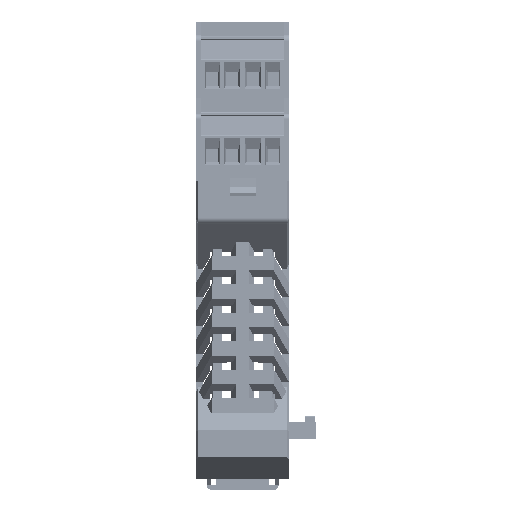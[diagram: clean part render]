
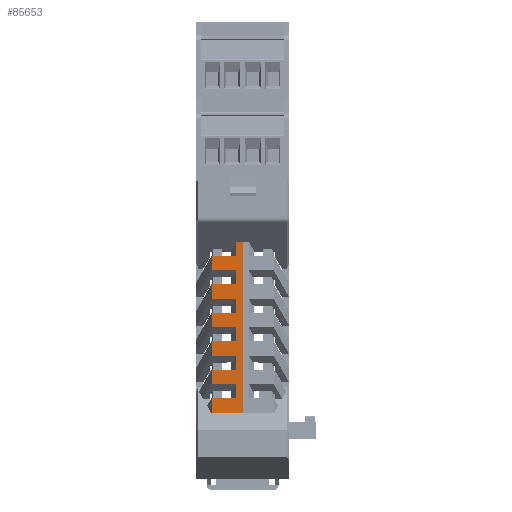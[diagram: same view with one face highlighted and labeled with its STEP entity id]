
A CAD part, front view. The second image highlights one B-rep face of the part: STEP entity #85653.
In plain terms, the highlighted planar face has unit normal (0, -1, 0) as drawn and (1, 0, 0) by its records, which use the part's own axes.
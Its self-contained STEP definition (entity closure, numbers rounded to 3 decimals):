
#85653=ADVANCED_FACE('',(#185867),#185869,.T.);
#185867=FACE_BOUND('',#185868,.T.);
#185868=EDGE_LOOP('',(#266113,#266114,#266115,#266116,#266117,#266118,#266119,#266120,
#266121,#266122,#266123,#266124,#266125,#266126,#266127,#266128,#266129,#266130,
#266131,#266132,#266133,#266134,#266135,#266136,#266137,#266138));
#185869=PLANE('',#185870);
#185870=AXIS2_PLACEMENT_3D('',#185871,#185872,#185873);
#185871=CARTESIAN_POINT('',(42.55,76.5,0.));
#185872=DIRECTION('',(1.,0.,0.));
#185873=DIRECTION('',(0.,0.,-1.));
#266113=ORIENTED_EDGE('',*,*,#314210,.F.);
#266114=ORIENTED_EDGE('',*,*,#314149,.F.);
#266115=ORIENTED_EDGE('',*,*,#314211,.F.);
#266116=ORIENTED_EDGE('',*,*,#314212,.T.);
#266117=ORIENTED_EDGE('',*,*,#313713,.T.);
#266118=ORIENTED_EDGE('',*,*,#314213,.F.);
#266119=ORIENTED_EDGE('',*,*,#314079,.F.);
#266120=ORIENTED_EDGE('',*,*,#314144,.F.);
#266121=ORIENTED_EDGE('',*,*,#313874,.F.);
#266122=ORIENTED_EDGE('',*,*,#314190,.T.);
#266123=ORIENTED_EDGE('',*,*,#314168,.F.);
#266124=ORIENTED_EDGE('',*,*,#314141,.F.);
#266125=ORIENTED_EDGE('',*,*,#314196,.F.);
#266126=ORIENTED_EDGE('',*,*,#314214,.T.);
#266127=ORIENTED_EDGE('',*,*,#314197,.T.);
#266128=ORIENTED_EDGE('',*,*,#314155,.F.);
#266129=ORIENTED_EDGE('',*,*,#314209,.T.);
#266130=ORIENTED_EDGE('',*,*,#314215,.T.);
#266131=ORIENTED_EDGE('',*,*,#314216,.T.);
#266132=ORIENTED_EDGE('',*,*,#314152,.F.);
#266133=ORIENTED_EDGE('',*,*,#314131,.T.);
#266134=ORIENTED_EDGE('',*,*,#314217,.F.);
#266135=ORIENTED_EDGE('',*,*,#314111,.T.);
#266136=ORIENTED_EDGE('',*,*,#314151,.F.);
#266137=ORIENTED_EDGE('',*,*,#314124,.T.);
#266138=ORIENTED_EDGE('',*,*,#314218,.T.);
#313713=EDGE_CURVE('',#368126,#368124,#368127,.T.);
#313874=EDGE_CURVE('',#368400,#368402,#368403,.T.);
#314079=EDGE_CURVE('',#368747,#368749,#368750,.T.);
#314111=EDGE_CURVE('',#368791,#368797,#368799,.T.);
#314124=EDGE_CURVE('',#368819,#368817,#368820,.T.);
#314131=EDGE_CURVE('',#368823,#368827,#368829,.T.);
#314141=EDGE_CURVE('',#368844,#368846,#368847,.T.);
#314144=EDGE_CURVE('',#368402,#368747,#368851,.T.);
#314149=EDGE_CURVE('',#368858,#368860,#368861,.T.);
#314151=EDGE_CURVE('',#368819,#368797,#368863,.T.);
#314152=EDGE_CURVE('',#368823,#368864,#368865,.T.);
#314155=EDGE_CURVE('',#368867,#368869,#368870,.T.);
#314168=EDGE_CURVE('',#368846,#368889,#368890,.T.);
#314190=EDGE_CURVE('',#368400,#368889,#368925,.T.);
#314196=EDGE_CURVE('',#368932,#368844,#368934,.T.);
#314197=EDGE_CURVE('',#368935,#368869,#368936,.T.);
#314209=EDGE_CURVE('',#368867,#368950,#368952,.T.);
#314210=EDGE_CURVE('',#368860,#368953,#368954,.T.);
#314211=EDGE_CURVE('',#368955,#368858,#368956,.T.);
#314212=EDGE_CURVE('',#368955,#368126,#368957,.T.);
#314213=EDGE_CURVE('',#368749,#368124,#368958,.T.);
#314214=EDGE_CURVE('',#368932,#368935,#368959,.T.);
#314215=EDGE_CURVE('',#368950,#368960,#368961,.T.);
#314216=EDGE_CURVE('',#368960,#368864,#368962,.T.);
#314217=EDGE_CURVE('',#368791,#368827,#368963,.T.);
#314218=EDGE_CURVE('',#368817,#368953,#368964,.T.);
#368124=VERTEX_POINT('',#491467);
#368126=VERTEX_POINT('',#491471);
#368127=LINE('',#491472,#491473);
#368400=VERTEX_POINT('',#492074);
#368402=VERTEX_POINT('',#492078);
#368403=LINE('',#492079,#492080);
#368747=VERTEX_POINT('',#492849);
#368749=VERTEX_POINT('',#492853);
#368750=LINE('',#492854,#492855);
#368791=VERTEX_POINT('',#492949);
#368797=VERTEX_POINT('',#492963);
#368799=LINE('',#492967,#492968);
#368817=VERTEX_POINT('',#493009);
#368819=VERTEX_POINT('',#493013);
#368820=LINE('',#493014,#493015);
#368823=VERTEX_POINT('',#493023);
#368827=VERTEX_POINT('',#493033);
#368829=LINE('',#493037,#493038);
#368844=VERTEX_POINT('',#493070);
#368846=VERTEX_POINT('',#493074);
#368847=LINE('',#493075,#493076);
#368851=LINE('',#493085,#493086);
#368858=VERTEX_POINT('',#493100);
#368860=VERTEX_POINT('',#493104);
#368861=LINE('',#493105,#493106);
#368863=LINE('',#493111,#493112);
#368864=VERTEX_POINT('',#493114);
#368865=LINE('',#493115,#493116);
#368867=VERTEX_POINT('',#493121);
#368869=VERTEX_POINT('',#493125);
#368870=LINE('',#493126,#493127);
#368889=VERTEX_POINT('',#493171);
#368890=LINE('',#493172,#493173);
#368925=LINE('',#493251,#493252);
#368932=VERTEX_POINT('',#493268);
#368934=LINE('',#493272,#493273);
#368935=VERTEX_POINT('',#493275);
#368936=LINE('',#493276,#493277);
#368950=VERTEX_POINT('',#493312);
#368952=LINE('',#493316,#493317);
#368953=VERTEX_POINT('',#493319);
#368954=LINE('',#493320,#493321);
#368955=VERTEX_POINT('',#493323);
#368956=LINE('',#493324,#493325);
#368957=LINE('',#493327,#493328);
#368958=LINE('',#493330,#493331);
#368959=LINE('',#493333,#493334);
#368960=VERTEX_POINT('',#493336);
#368961=LINE('',#493337,#493338);
#368962=LINE('',#493340,#493341);
#368963=LINE('',#493343,#493344);
#368964=LINE('',#493346,#493347);
#491467=CARTESIAN_POINT('',(42.55,20.,0.));
#491471=CARTESIAN_POINT('',(42.55,20.,7.547));
#491472=CARTESIAN_POINT('',(42.55,20.,7.547));
#491473=VECTOR('',#491474,1.);
#491474=DIRECTION('',(0.,0.,-1.));
#492074=CARTESIAN_POINT('',(42.55,58.2,7.547));
#492078=CARTESIAN_POINT('',(42.55,58.2,1.5));
#492079=CARTESIAN_POINT('',(42.55,58.2,7.547));
#492080=VECTOR('',#492081,1.);
#492081=DIRECTION('',(0.,0.,-1.));
#492849=CARTESIAN_POINT('',(42.55,61.6,1.5));
#492853=CARTESIAN_POINT('',(42.55,61.6,0.));
#492854=CARTESIAN_POINT('',(42.55,61.6,1.5));
#492855=VECTOR('',#492856,1.);
#492856=DIRECTION('',(0.,0.,-1.));
#492949=CARTESIAN_POINT('',(42.55,34.,7.547));
#492963=CARTESIAN_POINT('',(42.55,34.,1.5));
#492967=CARTESIAN_POINT('',(42.55,34.,7.547));
#492968=VECTOR('',#492969,1.);
#492969=DIRECTION('',(0.,0.,-1.));
#493009=CARTESIAN_POINT('',(42.55,30.6,7.547));
#493013=CARTESIAN_POINT('',(42.55,30.6,1.5));
#493014=CARTESIAN_POINT('',(42.55,30.6,1.5));
#493015=VECTOR('',#493016,1.);
#493016=DIRECTION('',(0.,0.,1.));
#493023=CARTESIAN_POINT('',(42.55,37.5,1.5));
#493033=CARTESIAN_POINT('',(42.55,37.5,7.547));
#493037=CARTESIAN_POINT('',(42.55,37.5,1.5));
#493038=VECTOR('',#493039,1.);
#493039=DIRECTION('',(0.,0.,1.));
#493070=CARTESIAN_POINT('',(42.55,51.3,1.5));
#493074=CARTESIAN_POINT('',(42.55,54.7,1.5));
#493075=CARTESIAN_POINT('',(42.55,51.3,1.5));
#493076=VECTOR('',#493077,1.);
#493077=DIRECTION('',(0.,1.,0.));
#493085=CARTESIAN_POINT('',(42.55,58.2,1.5));
#493086=VECTOR('',#493087,1.);
#493087=DIRECTION('',(0.,1.,0.));
#493100=CARTESIAN_POINT('',(42.55,23.7,1.5));
#493104=CARTESIAN_POINT('',(42.55,27.1,1.5));
#493105=CARTESIAN_POINT('',(42.55,23.7,1.5));
#493106=VECTOR('',#493107,1.);
#493107=DIRECTION('',(0.,1.,0.));
#493111=CARTESIAN_POINT('',(42.55,30.6,1.5));
#493112=VECTOR('',#493113,1.);
#493113=DIRECTION('',(0.,1.,0.));
#493114=CARTESIAN_POINT('',(42.55,40.9,1.5));
#493115=CARTESIAN_POINT('',(42.55,37.5,1.5));
#493116=VECTOR('',#493117,1.);
#493117=DIRECTION('',(0.,1.,0.));
#493121=CARTESIAN_POINT('',(42.55,44.4,1.5));
#493125=CARTESIAN_POINT('',(42.55,47.8,1.5));
#493126=CARTESIAN_POINT('',(42.55,44.4,1.5));
#493127=VECTOR('',#493128,1.);
#493128=DIRECTION('',(0.,1.,0.));
#493171=CARTESIAN_POINT('',(42.55,54.7,7.547));
#493172=CARTESIAN_POINT('',(42.55,54.7,1.5));
#493173=VECTOR('',#493174,1.);
#493174=DIRECTION('',(0.,0.,1.));
#493251=CARTESIAN_POINT('',(42.55,58.2,7.547));
#493252=VECTOR('',#493253,1.);
#493253=DIRECTION('',(0.,-1.,0.));
#493268=CARTESIAN_POINT('',(42.55,51.3,7.547));
#493272=CARTESIAN_POINT('',(42.55,51.3,7.547));
#493273=VECTOR('',#493274,1.);
#493274=DIRECTION('',(0.,0.,-1.));
#493275=CARTESIAN_POINT('',(42.55,47.8,7.547));
#493276=CARTESIAN_POINT('',(42.55,47.8,7.547));
#493277=VECTOR('',#493278,1.);
#493278=DIRECTION('',(0.,0.,-1.));
#493312=CARTESIAN_POINT('',(42.55,44.4,7.547));
#493316=CARTESIAN_POINT('',(42.55,44.4,1.5));
#493317=VECTOR('',#493318,1.);
#493318=DIRECTION('',(0.,0.,1.));
#493319=CARTESIAN_POINT('',(42.55,27.1,7.547));
#493320=CARTESIAN_POINT('',(42.55,27.1,1.5));
#493321=VECTOR('',#493322,1.);
#493322=DIRECTION('',(0.,0.,1.));
#493323=CARTESIAN_POINT('',(42.55,23.7,7.547));
#493324=CARTESIAN_POINT('',(42.55,23.7,7.547));
#493325=VECTOR('',#493326,1.);
#493326=DIRECTION('',(0.,0.,-1.));
#493327=CARTESIAN_POINT('',(42.55,23.7,7.547));
#493328=VECTOR('',#493329,1.);
#493329=DIRECTION('',(0.,-1.,0.));
#493330=CARTESIAN_POINT('',(42.55,61.6,0.));
#493331=VECTOR('',#493332,1.);
#493332=DIRECTION('',(0.,-1.,0.));
#493333=CARTESIAN_POINT('',(42.55,51.3,7.547));
#493334=VECTOR('',#493335,1.);
#493335=DIRECTION('',(0.,-1.,0.));
#493336=CARTESIAN_POINT('',(42.55,40.9,7.547));
#493337=CARTESIAN_POINT('',(42.55,44.4,7.547));
#493338=VECTOR('',#493339,1.);
#493339=DIRECTION('',(0.,-1.,0.));
#493340=CARTESIAN_POINT('',(42.55,40.9,7.547));
#493341=VECTOR('',#493342,1.);
#493342=DIRECTION('',(0.,0.,-1.));
#493343=CARTESIAN_POINT('',(42.55,34.,7.547));
#493344=VECTOR('',#493345,1.);
#493345=DIRECTION('',(0.,1.,0.));
#493346=CARTESIAN_POINT('',(42.55,30.6,7.547));
#493347=VECTOR('',#493348,1.);
#493348=DIRECTION('',(0.,-1.,0.));
